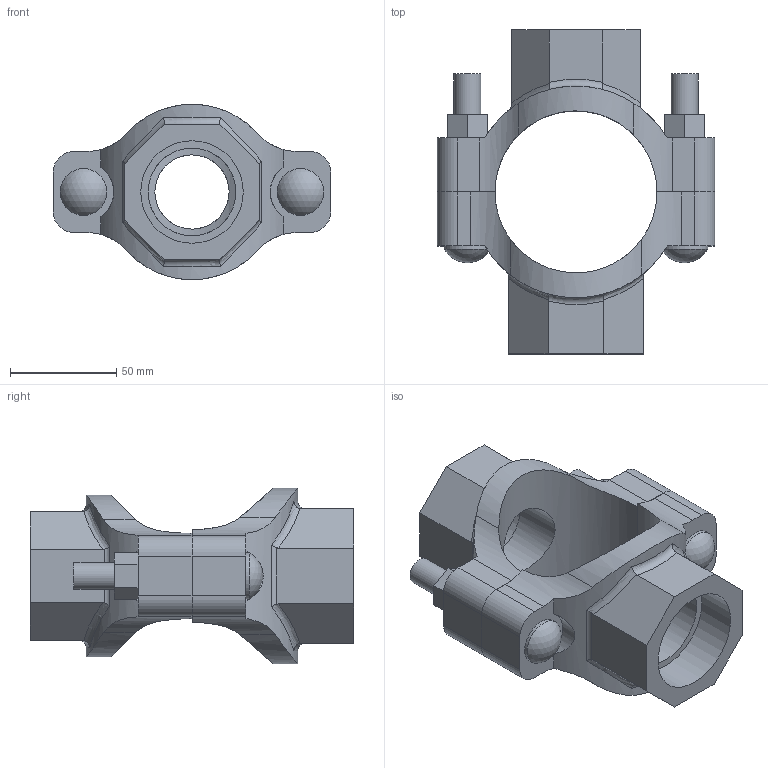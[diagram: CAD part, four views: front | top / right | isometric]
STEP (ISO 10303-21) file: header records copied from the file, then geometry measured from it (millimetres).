
FILE_DESCRIPTION(/* description */ ('VIC MECH-T BRANCH OUTLET CROSS STYLE 920N (THD)','CAx-IF Rec.Pracs.---Representation and Presentation of Product Manufacturing Information (PMI)---4.0---2014-10-13'),/* implementation_level */ '2;1');
FILE_NAME(/* name */ 'C:\Users\Vjadhav\AppData\Roaming\Autodesk\ApplicationPlugins\Back Up\Victaulic_IPS_Mechanical-Cross Outlet_Style 920N (FPT)\Victaulic_IPS_Mechanical-Cross Outlet_02.5 (76.1)x01.25x01.5 (65x32x40).stp',/* time_stamp */ '2020-08-06T18:56:57+05:00',/* author */ ('Vjadhav'),/* organization */ ('Victaulic'),/* preprocessor_version */ 'ST-DEVELOPER v17.2',/* originating_system */ 'Autodesk Inventor 2019',/* authorisation */ '');
FILE_SCHEMA (('AP242_MANAGED_MODEL_BASED_3D_ENGINEERING_MIM_LF { 1 0 10303 442 1 1 4 }'));
Length unit declared in the file: inch
Products named in the file (3): 920NT-02.5 (76.1)x01.25x01.5; 920NT-02.5 (76.1)x01.25; 920NT-02.5 (76.1)x01.5
Assembly tree (2 placements, depth 2):
  920NT-02.5 (76.1)x01.25x01.5
    920NT-02.5 (76.1)x01.25
    920NT-02.5 (76.1)x01.5
Bounding box: 130.56 x 152.4 x 82.53 mm (x, y, z)
Volume: 324990.8 mm3; surface area: 79700.6 mm2
Topology: 2 solids, 2 shells, 132 faces, 350 edges, 236 vertices
Faces by surface type: plane 68, cylinder 50, bspline 8, torus 4, sphere 2
Full cylindrical faces by diameter (mm): 12.7 x4, 21.982 x2, 34.925 x1, 41.275 x1, 42.164 x1, 48.26 x1
Entity records: 5258 total; most frequent: CARTESIAN_POINT 1739, ORIENTED_EDGE 700, DIRECTION 652, EDGE_CURVE 350, VERTEX_POINT 236, AXIS2_PLACEMENT_3D 233, LINE 186, VECTOR 186
